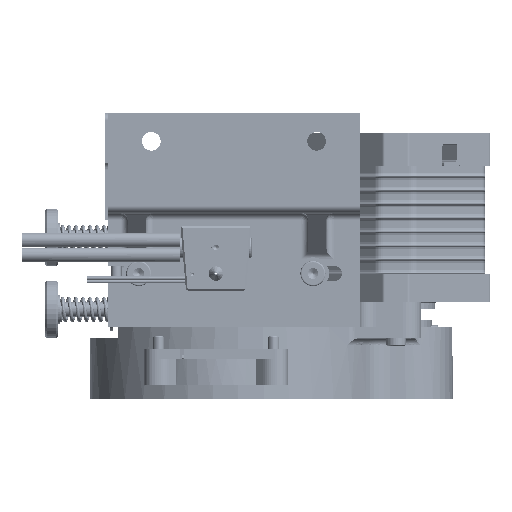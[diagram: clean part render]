
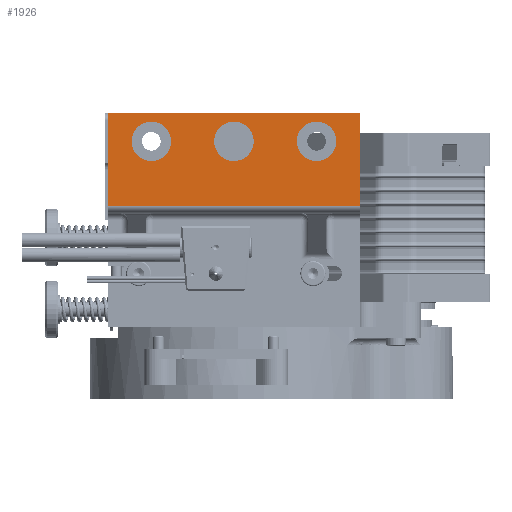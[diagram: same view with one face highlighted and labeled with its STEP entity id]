
A CAD part, front view. The second image highlights one B-rep face of the part: STEP entity #1926.
In plain terms, the highlighted planar face has unit normal (0, -1, 0).
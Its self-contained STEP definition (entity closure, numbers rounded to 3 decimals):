
#73=DIRECTION('',(1.,0.,0.));
#74=VECTOR('',#73,70.);
#75=CARTESIAN_POINT('',(-35.,-21.3,-0.3));
#76=LINE('',#75,#74);
#80=DIRECTION('',(0.,0.,-1.));
#81=VECTOR('',#80,25.9);
#82=CARTESIAN_POINT('',(35.,-21.3,-0.3));
#83=LINE('',#82,#81);
#87=CARTESIAN_POINT('',(23.,-21.3,-8.25));
#88=DIRECTION('',(0.,-1.,0.));
#89=DIRECTION('',(-1.,0.,0.));
#90=AXIS2_PLACEMENT_3D('',#87,#88,#89);
#95=CARTESIAN_POINT('',(23.,-21.3,-8.25));
#96=DIRECTION('',(0.,-1.,0.));
#97=DIRECTION('',(1.,0.,0.));
#98=AXIS2_PLACEMENT_3D('',#95,#96,#97);
#103=CARTESIAN_POINT('',(0.,-21.3,-8.25));
#104=DIRECTION('',(0.,-1.,0.));
#105=DIRECTION('',(-1.,0.,0.));
#106=AXIS2_PLACEMENT_3D('',#103,#104,#105);
#111=CARTESIAN_POINT('',(0.,-21.3,-8.25));
#112=DIRECTION('',(0.,-1.,0.));
#113=DIRECTION('',(1.,0.,0.));
#114=AXIS2_PLACEMENT_3D('',#111,#112,#113);
#119=CARTESIAN_POINT('',(-23.,-21.3,-8.25));
#120=DIRECTION('',(0.,-1.,0.));
#121=DIRECTION('',(-1.,0.,0.));
#122=AXIS2_PLACEMENT_3D('',#119,#120,#121);
#127=CARTESIAN_POINT('',(-23.,-21.3,-8.25));
#128=DIRECTION('',(0.,-1.,0.));
#129=DIRECTION('',(1.,0.,0.));
#130=AXIS2_PLACEMENT_3D('',#127,#128,#129);
#142=DIRECTION('',(1.,0.,0.));
#143=VECTOR('',#142,70.);
#144=CARTESIAN_POINT('',(-35.,-21.3,-26.2));
#145=LINE('',#144,#143);
#992=DIRECTION('',(0.,0.,-1.));
#993=VECTOR('',#992,25.9);
#994=CARTESIAN_POINT('',(-35.,-21.3,-0.3));
#995=LINE('',#994,#993);
#1586=CARTESIAN_POINT('',(35.,-21.3,-0.3));
#1587=CARTESIAN_POINT('',(35.,-21.3,-26.2));
#1588=VERTEX_POINT('',#1586);
#1589=VERTEX_POINT('',#1587);
#1620=CARTESIAN_POINT('',(-35.,-21.3,-26.2));
#1621=VERTEX_POINT('',#1620);
#1622=CARTESIAN_POINT('',(-35.,-21.3,-0.3));
#1623=VERTEX_POINT('',#1622);
#1624=CARTESIAN_POINT('',(17.5,-21.3,-8.25));
#1625=CARTESIAN_POINT('',(28.5,-21.3,-8.25));
#1626=VERTEX_POINT('',#1624);
#1627=VERTEX_POINT('',#1625);
#1628=CARTESIAN_POINT('',(-5.5,-21.3,-8.25));
#1629=CARTESIAN_POINT('',(5.5,-21.3,-8.25));
#1630=VERTEX_POINT('',#1628);
#1631=VERTEX_POINT('',#1629);
#1632=CARTESIAN_POINT('',(-28.5,-21.3,-8.25));
#1633=CARTESIAN_POINT('',(-17.5,-21.3,-8.25));
#1634=VERTEX_POINT('',#1632);
#1635=VERTEX_POINT('',#1633);
#1894=CARTESIAN_POINT('',(35.,-21.3,-28.2));
#1895=DIRECTION('',(0.,-1.,0.));
#1896=DIRECTION('',(0.,0.,1.));
#1897=AXIS2_PLACEMENT_3D('',#1894,#1895,#1896);
#1898=PLANE('',#1897);
#1900=ORIENTED_EDGE('',*,*,#1899,.F.);
#1902=ORIENTED_EDGE('',*,*,#1901,.F.);
#1904=ORIENTED_EDGE('',*,*,#1903,.T.);
#1905=ORIENTED_EDGE('',*,*,#1857,.T.);
#1906=EDGE_LOOP('',(#1900,#1902,#1904,#1905));
#1907=FACE_OUTER_BOUND('',#1906,.F.);
#1909=ORIENTED_EDGE('',*,*,#1908,.T.);
#1911=ORIENTED_EDGE('',*,*,#1910,.T.);
#1912=EDGE_LOOP('',(#1909,#1911));
#1913=FACE_BOUND('',#1912,.F.);
#1915=ORIENTED_EDGE('',*,*,#1914,.T.);
#1917=ORIENTED_EDGE('',*,*,#1916,.T.);
#1918=EDGE_LOOP('',(#1915,#1917));
#1919=FACE_BOUND('',#1918,.F.);
#1921=ORIENTED_EDGE('',*,*,#1920,.T.);
#1923=ORIENTED_EDGE('',*,*,#1922,.T.);
#1924=EDGE_LOOP('',(#1921,#1923));
#1925=FACE_BOUND('',#1924,.F.);
#91=CIRCLE('',#90,5.5);
#99=CIRCLE('',#98,5.5);
#107=CIRCLE('',#106,5.5);
#115=CIRCLE('',#114,5.5);
#123=CIRCLE('',#122,5.5);
#131=CIRCLE('',#130,5.5);
#1857=EDGE_CURVE('',#1588,#1589,#83,.T.);
#1899=EDGE_CURVE('',#1621,#1589,#145,.T.);
#1901=EDGE_CURVE('',#1623,#1621,#995,.T.);
#1903=EDGE_CURVE('',#1623,#1588,#76,.T.);
#1908=EDGE_CURVE('',#1626,#1627,#91,.T.);
#1910=EDGE_CURVE('',#1627,#1626,#99,.T.);
#1914=EDGE_CURVE('',#1630,#1631,#107,.T.);
#1916=EDGE_CURVE('',#1631,#1630,#115,.T.);
#1920=EDGE_CURVE('',#1634,#1635,#123,.T.);
#1922=EDGE_CURVE('',#1635,#1634,#131,.T.);
#1926=ADVANCED_FACE('',(#1907,#1913,#1919,#1925),#1898,.T.);
